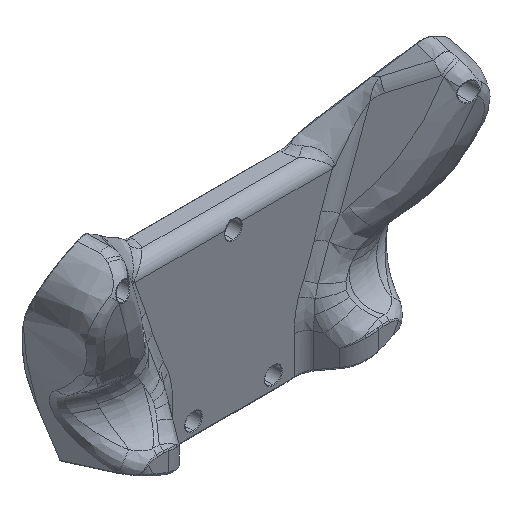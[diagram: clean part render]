
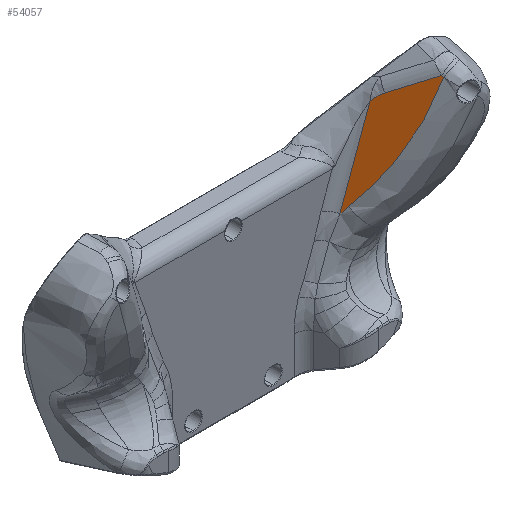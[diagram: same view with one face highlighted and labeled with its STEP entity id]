
A CAD part, isometric view. The second image highlights one B-rep face of the part: STEP entity #54057.
In plain terms, the highlighted planar face has unit normal (-0.852, -0.423, 0.31).
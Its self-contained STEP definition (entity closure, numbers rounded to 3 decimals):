
#883 = VERTEX_POINT ( 'NONE', #47482 ) ;
#1366 = CARTESIAN_POINT ( 'NONE',  ( 58.785, 6.279, 19.417 ) ) ;
#1485 = B_SPLINE_CURVE_WITH_KNOTS ( 'NONE', 3,
 ( #48990, #54415, #17851, #78193 ),
 .UNSPECIFIED., .F., .F.,
 ( 4, 4 ),
 ( 0., 1. ),
 .UNSPECIFIED. ) ;
#2814 = CARTESIAN_POINT ( 'NONE',  ( 37.201, 22.113, -18.295 ) ) ;
#4298 = CARTESIAN_POINT ( 'NONE',  ( 60.165, 6.008, 22.84 ) ) ;
#6520 = CARTESIAN_POINT ( 'NONE',  ( 49.532, 21.03, 14.107 ) ) ;
#7596 = CARTESIAN_POINT ( 'NONE',  ( 46.843, 13.198, -3.961 ) ) ;
#8328 = ORIENTED_EDGE ( 'NONE', *, *, #12502, .F. ) ;
#8568 = EDGE_CURVE ( 'NONE', #883, #65766, #71779, .T. ) ;
#8934 = ORIENTED_EDGE ( 'NONE', *, *, #52824, .F. ) ;
#11521 = CARTESIAN_POINT ( 'NONE',  ( 50.6, 19.751, 15.297 ) ) ;
#12502 = EDGE_CURVE ( 'NONE', #62789, #61644, #42342, .T. ) ;
#12996 = CARTESIAN_POINT ( 'NONE',  ( 40.902, 18.455, -13.115 ) ) ;
#14916 = DIRECTION ( 'NONE',  ( 0.522, -0.731, 0.438 ) ) ;
#15255 = CARTESIAN_POINT ( 'NONE',  ( 38.279, 21.114, -16.696 ) ) ;
#15666 = CARTESIAN_POINT ( 'NONE',  ( 38.833, 20.552, -15.939 ) ) ;
#17718 = EDGE_CURVE ( 'NONE', #39613, #62789, #76182, .T. ) ;
#17851 = CARTESIAN_POINT ( 'NONE',  ( 60.108, 6.216, 22.966 ) ) ;
#19252 = CARTESIAN_POINT ( 'NONE',  ( 37.201, 22.113, -18.295 ) ) ;
#25054 = CARTESIAN_POINT ( 'NONE',  ( 16.232, 22.113, -75.908 ) ) ;
#25183 = CARTESIAN_POINT ( 'NONE',  ( 50.815, 19.467, 15.5 ) ) ;
#26257 = CARTESIAN_POINT ( 'NONE',  ( 57.294, 6.786, 16.012 ) ) ;
#31563 = ORIENTED_EDGE ( 'NONE', *, *, #52140, .F. ) ;
#31807 = CARTESIAN_POINT ( 'NONE',  ( 51.032, 19.164, 15.682 ) ) ;
#33677 = EDGE_LOOP ( 'NONE', ( #69645, #8328, #57399, #8934, #60647, #31563 ) ) ;
#33867 = FACE_OUTER_BOUND ( 'NONE', #33677, .T. ) ;
#39285 = CARTESIAN_POINT ( 'NONE',  ( 48.483, 22.113, 12.701 ) ) ;
#39613 = VERTEX_POINT ( 'NONE', #4298 ) ;
#40575 = CARTESIAN_POINT ( 'NONE',  ( 37.734, 21.635, -17.483 ) ) ;
#41047 = CARTESIAN_POINT ( 'NONE',  ( 51.032, 19.164, 15.682 ) ) ;
#42342 = B_SPLINE_CURVE_WITH_KNOTS ( 'NONE', 3,
 ( #15666, #15255, #40575, #2814 ),
 .UNSPECIFIED., .F., .F.,
 ( 4, 4 ),
 ( 0., 1. ),
 .UNSPECIFIED. ) ;
#44152 = DIRECTION ( 'NONE',  ( -0.342, 0., -0.94 ) ) ;
#44845 = VERTEX_POINT ( 'NONE', #39285 ) ;
#46746 = DIRECTION ( 'NONE',  ( 0.852, 0.423, -0.31 ) ) ;
#47482 = CARTESIAN_POINT ( 'NONE',  ( 51.032, 19.164, 15.682 ) ) ;
#48990 = CARTESIAN_POINT ( 'NONE',  ( 59.978, 6.641, 23.189 ) ) ;
#49284 = CARTESIAN_POINT ( 'NONE',  ( 48.899, 21.702, 13.282 ) ) ;
#50109 = CARTESIAN_POINT ( 'NONE',  ( 48.69, 21.911, 12.995 ) ) ;
#50514 = CARTESIAN_POINT ( 'NONE',  ( 48.483, 22.113, 12.701 ) ) ;
#51172 = CARTESIAN_POINT ( 'NONE',  ( 48.736, 11.736, -0.752 ) ) ;
#52140 = EDGE_CURVE ( 'NONE', #44845, #883, #68961, .T. ) ;
#52824 = EDGE_CURVE ( 'NONE', #65766, #39613, #1485, .T. ) ;
#52984 = CARTESIAN_POINT ( 'NONE',  ( 14.967, 25., -75.448 ) ) ;
#53232 = VECTOR ( 'NONE', #14916, 1000. ) ;
#54057 = ADVANCED_FACE ( 'NONE', ( #33867 ), #76672, .F. ) ;
#54415 = CARTESIAN_POINT ( 'NONE',  ( 60.045, 6.428, 23.082 ) ) ;
#54527 = CARTESIAN_POINT ( 'NONE',  ( 59.978, 6.641, 23.189 ) ) ;
#56616 = LINE ( 'NONE', #25054, #71190 ) ;
#56742 = CARTESIAN_POINT ( 'NONE',  ( 50.171, 20.29, 14.853 ) ) ;
#57399 = ORIENTED_EDGE ( 'NONE', *, *, #17718, .F. ) ;
#57854 = AXIS2_PLACEMENT_3D ( 'NONE', #52984, #46746, #71670 ) ;
#59605 = EDGE_CURVE ( 'NONE', #44845, #61644, #56616, .T. ) ;
#60647 = ORIENTED_EDGE ( 'NONE', *, *, #8568, .F. ) ;
#61644 = VERTEX_POINT ( 'NONE', #19252 ) ;
#62789 = VERTEX_POINT ( 'NONE', #71729 ) ;
#63209 = CARTESIAN_POINT ( 'NONE',  ( 54.082, 8.279, 9.223 ) ) ;
#64023 = CARTESIAN_POINT ( 'NONE',  ( 60.165, 6.008, 22.84 ) ) ;
#65766 = VERTEX_POINT ( 'NONE', #54527 ) ;
#68373 = CARTESIAN_POINT ( 'NONE',  ( 49.32, 21.261, 13.838 ) ) ;
#68961 = B_SPLINE_CURVE_WITH_KNOTS ( 'NONE', 3,
 ( #50514, #50109, #49284, #68373, #6520, #82053, #56742, #11521, #25183, #31807 ),
 .UNSPECIFIED., .F., .F.,
 ( 4, 2, 2, 2, 4 ),
 ( 0., 0.25, 0.5, 0.75, 1. ),
 .UNSPECIFIED. ) ;
#69645 = ORIENTED_EDGE ( 'NONE', *, *, #59605, .T. ) ;
#70257 = CARTESIAN_POINT ( 'NONE',  ( 52.356, 9.276, 5.84 ) ) ;
#71190 = VECTOR ( 'NONE', #44152, 1000. ) ;
#71670 = DIRECTION ( 'NONE',  ( -0.445, 0.896, 0. ) ) ;
#71729 = CARTESIAN_POINT ( 'NONE',  ( 38.833, 20.552, -15.939 ) ) ;
#71779 = LINE ( 'NONE', #41047, #53232 ) ;
#75678 = CARTESIAN_POINT ( 'NONE',  ( 42.925, 16.558, -10.142 ) ) ;
#76182 =( BOUNDED_CURVE ( )  B_SPLINE_CURVE ( 3, ( #64023, #1366, #26257, #63209, #70257, #51172, #7596, #75678, #12996, #76501 ),
 .UNSPECIFIED., .F., .T. ) 
 B_SPLINE_CURVE_WITH_KNOTS ( ( 4, 2, 2, 2, 4 ),
 ( 0., 0.245, 0.497, 0.748, 1. ),
 .UNSPECIFIED. ) 
 CURVE ( )  GEOMETRIC_REPRESENTATION_ITEM ( )  RATIONAL_B_SPLINE_CURVE ( ( 1., 1., 1., 1., 1., 1., 1., 1., 1., 1. ) ) 
 REPRESENTATION_ITEM ( '' )  );
#76501 = CARTESIAN_POINT ( 'NONE',  ( 38.833, 20.552, -15.939 ) ) ;
#76672 = PLANE ( 'NONE',  #57854 ) ;
#78193 = CARTESIAN_POINT ( 'NONE',  ( 60.165, 6.008, 22.84 ) ) ;
#82053 = CARTESIAN_POINT ( 'NONE',  ( 49.958, 20.545, 14.614 ) ) ;
